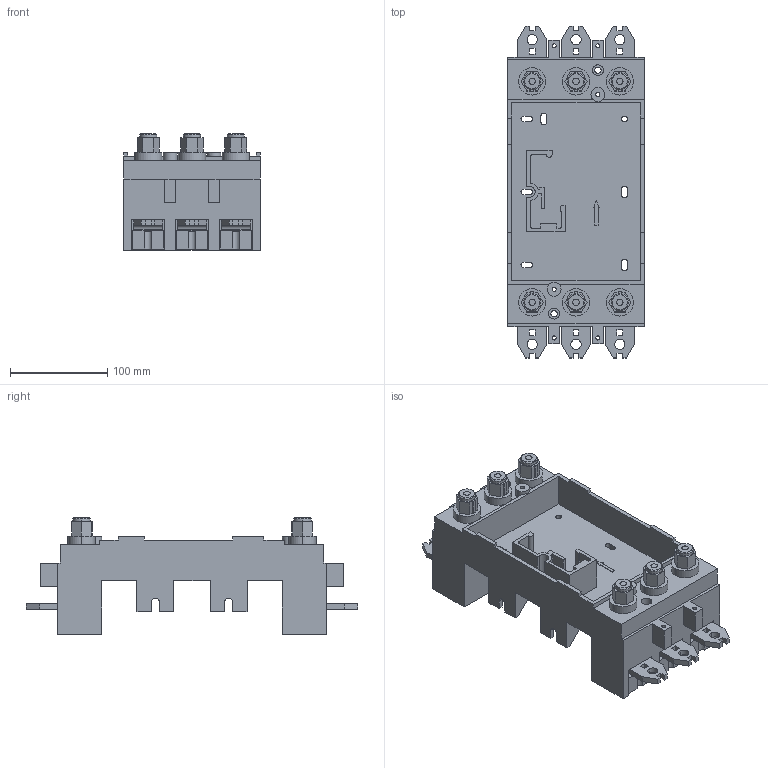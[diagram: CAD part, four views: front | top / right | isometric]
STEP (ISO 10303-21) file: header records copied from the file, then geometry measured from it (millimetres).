
FILE_DESCRIPTION (( 'STEP AP214' ), '1' );
FILE_NAME ('Êîìïëåêò äëÿ âòû÷íîãî ïðèñîåäèíåíèÿ OptiMat D400, D630 âåðòèêàëüíûå âûâîäû.STEP', '2023-04-04T03:38:34', ( '' ), ( '' ), 'SwSTEP 2.0', 'SolidWorks 2018', '' );
FILE_SCHEMA (( 'AUTOMOTIVE_DESIGN' ));
Length unit declared in the file: millimetre
Products named in the file (4): ﾂ鏆鮏; Âòû÷íîå âûäâèæíîå 630; Êîìïëåêò äëÿ âòû÷íîãî ïðèñîåäèíåíèÿ OptiMat D400, D630 âåðòèêàëüíûå âûâîäû; ч蜱齁罻
Assembly tree (13 placements, depth 2):
  Êîìïëåêò äëÿ âòû÷íîãî ïðèñîåäèíåíèÿ OptiMat D400, D630 âåðòèêàëüíûå âûâîäû
    Âòû÷íîå âûäâèæíîå 630
    ﾂ鏆鮏  x6
    ч蜱齁罻  x6
Bounding box: 140 x 341 x 119.9 mm (x, y, z)
Volume: 1503050.9 mm3; surface area: 329178.1 mm2
Topology: 13 solids, 13 shells, 631 faces, 1689 edges, 1118 vertices
Faces by surface type: plane 433, cylinder 186, cone 12
Entity records: 14211 total; most frequent: CARTESIAN_POINT 2444, DIRECTION 2413, ORIENTED_EDGE 2378, EDGE_CURVE 1189, VECTOR 899, LINE 899, VERTEX_POINT 788, AXIS2_PLACEMENT_3D 757
